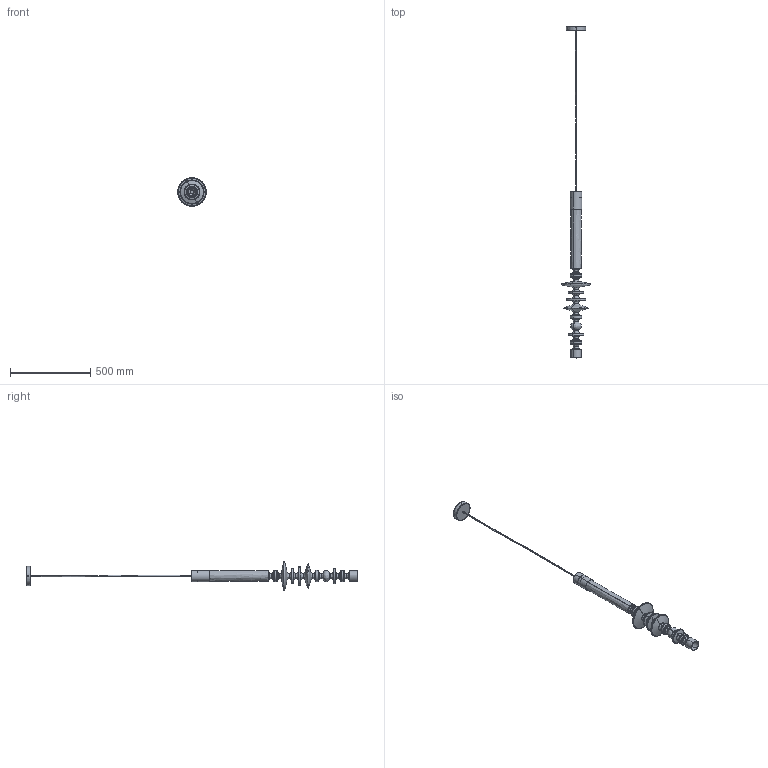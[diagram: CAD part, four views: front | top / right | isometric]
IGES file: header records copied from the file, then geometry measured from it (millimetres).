
Start section: SolidWorks IGES file using analytic representation for surfaces
Global section: file name: G:\Drive condivisi\Ufficio Tecnico\Research\X21 Filamento\Progetto\ATC-X21-S6 Sop. Vert\Architetti\Filamento Vertical 104.IGS; native system: SolidWorks 2025; preprocessor: SolidWorks 2025; author: Tecnico01; date: 260430.113530; units: millimetre
Bounding box: 177 x 2072 x 177 mm (x, y, z)
Surface area: 723033.8 mm2 (no closed solid volume)
Topology: 0 solids, 0 shells, 418 faces, 4472 edges, 4468 vertices
Faces by surface type: bspline 223, revolution 195
